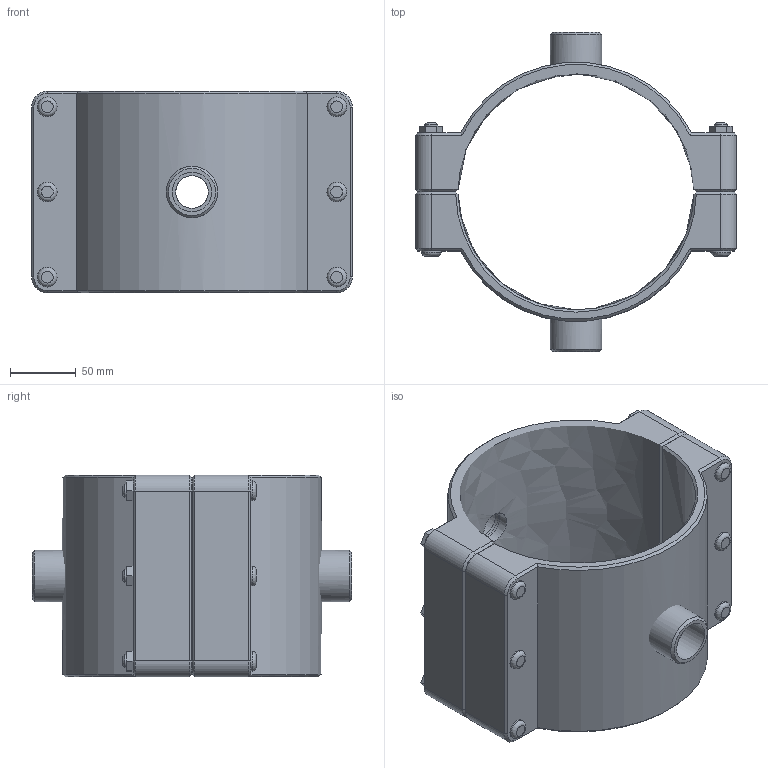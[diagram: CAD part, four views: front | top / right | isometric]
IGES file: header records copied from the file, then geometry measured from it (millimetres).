
Global section: file name: 161760180010_161860180010.ipt; native system: Autodesk Inventor 2015; preprocessor: unknown; author: KIM; date: 20170618.093825; units: millimetre
Bounding box: 245 x 244 x 154 mm (x, y, z)
Volume: 1582031.4 mm3; surface area: 250369.8 mm2
Topology: 3 solids, 3 shells, 179 faces, 416 edges, 265 vertices
Faces by surface type: plane 102, cylinder 30, cone 28, revolution 19
Full cylindrical faces by diameter (mm): 10 x6, 15 x12, 39.378 x2
